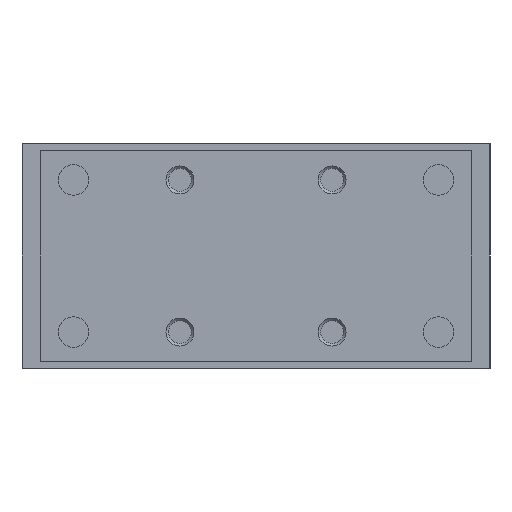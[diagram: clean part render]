
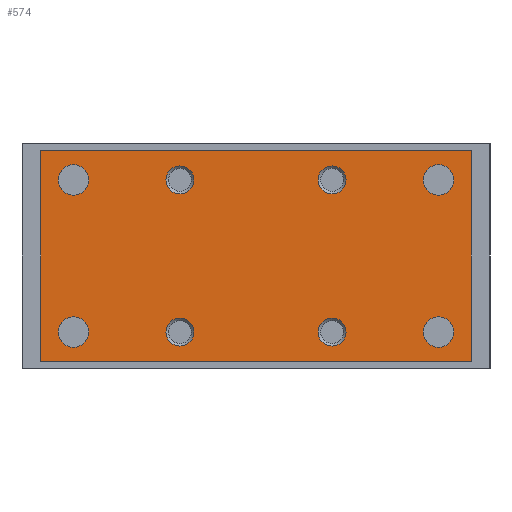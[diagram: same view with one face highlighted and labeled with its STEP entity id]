
A CAD part, left-side view. The second image highlights one B-rep face of the part: STEP entity #574.
In plain terms, the highlighted planar face has unit normal (-1, 0, 0).
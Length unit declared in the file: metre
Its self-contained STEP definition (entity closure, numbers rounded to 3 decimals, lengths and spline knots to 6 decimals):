
#574 = ADVANCED_FACE( '', ( #1321, #1322, #1323, #1324, #1325, #1326, #1327, #1328, #1329 ), #1330, .T. );
#1321 = FACE_BOUND( '', #2141, .T. );
#1322 = FACE_BOUND( '', #2142, .T. );
#1323 = FACE_BOUND( '', #2143, .T. );
#1324 = FACE_BOUND( '', #2144, .T. );
#1325 = FACE_BOUND( '', #2145, .T. );
#1326 = FACE_BOUND( '', #2146, .T. );
#1327 = FACE_BOUND( '', #2147, .T. );
#1328 = FACE_BOUND( '', #2148, .T. );
#1329 = FACE_OUTER_BOUND( '', #2149, .T. );
#1330 = PLANE( '', #2150 );
#2141 = EDGE_LOOP( '', ( #3475 ) );
#2142 = EDGE_LOOP( '', ( #3476 ) );
#2143 = EDGE_LOOP( '', ( #3477 ) );
#2144 = EDGE_LOOP( '', ( #3478 ) );
#2145 = EDGE_LOOP( '', ( #3479 ) );
#2146 = EDGE_LOOP( '', ( #3480 ) );
#2147 = EDGE_LOOP( '', ( #3481 ) );
#2148 = EDGE_LOOP( '', ( #3482 ) );
#2149 = EDGE_LOOP( '', ( #3483, #3484, #3485, #3486 ) );
#2150 = AXIS2_PLACEMENT_3D( '', #3487, #3488, #3489 );
#3475 = ORIENTED_EDGE( '', *, *, #4252, .F. );
#3476 = ORIENTED_EDGE( '', *, *, #4253, .F. );
#3477 = ORIENTED_EDGE( '', *, *, #4254, .F. );
#3478 = ORIENTED_EDGE( '', *, *, #3937, .F. );
#3479 = ORIENTED_EDGE( '', *, *, #4160, .T. );
#3480 = ORIENTED_EDGE( '', *, *, #3870, .F. );
#3481 = ORIENTED_EDGE( '', *, *, #4247, .F. );
#3482 = ORIENTED_EDGE( '', *, *, #3873, .T. );
#3483 = ORIENTED_EDGE( '', *, *, #4033, .T. );
#3484 = ORIENTED_EDGE( '', *, *, #4045, .T. );
#3485 = ORIENTED_EDGE( '', *, *, #4255, .T. );
#3486 = ORIENTED_EDGE( '', *, *, #4256, .T. );
#3487 = CARTESIAN_POINT( '', ( -0.06225, -0.046, -0.0015 ) );
#3488 = DIRECTION( '', ( -1., 0., 0. ) );
#3489 = DIRECTION( '', ( 0., 0., 1. ) );
#3870 = EDGE_CURVE( '', #4468, #4468, #4469, .T. );
#3873 = EDGE_CURVE( '', #4473, #4473, #4474, .T. );
#3937 = EDGE_CURVE( '', #4582, #4582, #4583, .T. );
#4033 = EDGE_CURVE( '', #4726, #4724, #4727, .T. );
#4045 = EDGE_CURVE( '', #4724, #4745, #4747, .T. );
#4160 = EDGE_CURVE( '', #4910, #4910, #4911, .T. );
#4247 = EDGE_CURVE( '', #5016, #5016, #5017, .T. );
#4252 = EDGE_CURVE( '', #5023, #5023, #5024, .T. );
#4253 = EDGE_CURVE( '', #5025, #5025, #5026, .T. );
#4254 = EDGE_CURVE( '', #5027, #5027, #5028, .T. );
#4255 = EDGE_CURVE( '', #4745, #5029, #5030, .T. );
#4256 = EDGE_CURVE( '', #5029, #4726, #5031, .T. );
#4468 = VERTEX_POINT( '', #5274 );
#4469 = CIRCLE( '', #5275, 0.003 );
#4473 = VERTEX_POINT( '', #5279 );
#4474 = CIRCLE( '', #5280, 0.003 );
#4582 = VERTEX_POINT( '', #5440 );
#4583 = CIRCLE( '', #5441, 0.00325 );
#4724 = VERTEX_POINT( '', #5649 );
#4726 = VERTEX_POINT( '', #5652 );
#4727 = LINE( '', #5653, #5654 );
#4745 = VERTEX_POINT( '', #5679 );
#4747 = LINE( '', #5682, #5683 );
#4910 = VERTEX_POINT( '', #5972 );
#4911 = CIRCLE( '', #5973, 0.003 );
#5016 = VERTEX_POINT( '', #6136 );
#5017 = CIRCLE( '', #6137, 0.003 );
#5023 = VERTEX_POINT( '', #6143 );
#5024 = CIRCLE( '', #6144, 0.00325 );
#5025 = VERTEX_POINT( '', #6145 );
#5026 = CIRCLE( '', #6146, 0.00325 );
#5027 = VERTEX_POINT( '', #6147 );
#5028 = CIRCLE( '', #6148, 0.00325 );
#5029 = VERTEX_POINT( '', #6149 );
#5030 = LINE( '', #6150, #6151 );
#5031 = LINE( '', #6152, #6153 );
#5274 = CARTESIAN_POINT( '', ( -0.06225, 0.01625, -0.03725 ) );
#5275 = AXIS2_PLACEMENT_3D( '', #6371, #6372, #6373 );
#5279 = CARTESIAN_POINT( '', ( -0.06225, 0.01625, -0.01075 ) );
#5280 = AXIS2_PLACEMENT_3D( '', #6377, #6378, #6379 );
#5440 = CARTESIAN_POINT( '', ( -0.06225, 0.03575, -0.00775 ) );
#5441 = AXIS2_PLACEMENT_3D( '', #6477, #6478, #6479 );
#5649 = CARTESIAN_POINT( '', ( -0.06225, -0.046, -0.0015 ) );
#5652 = CARTESIAN_POINT( '', ( -0.06225, -0.046, -0.0465 ) );
#5653 = CARTESIAN_POINT( '', ( -0.06225, -0.046, -0.0465 ) );
#5654 = VECTOR( '', #6596, 1. );
#5679 = CARTESIAN_POINT( '', ( -0.06225, 0.046, -0.0015 ) );
#5682 = CARTESIAN_POINT( '', ( -0.06225, -0.046, -0.0015 ) );
#5683 = VECTOR( '', #6608, 1. );
#5972 = CARTESIAN_POINT( '', ( -0.06225, -0.01625, -0.03725 ) );
#5973 = AXIS2_PLACEMENT_3D( '', #6738, #6739, #6740 );
#6136 = CARTESIAN_POINT( '', ( -0.06225, -0.01625, -0.01075 ) );
#6137 = AXIS2_PLACEMENT_3D( '', #6802, #6803, #6804 );
#6143 = CARTESIAN_POINT( '', ( -0.06225, -0.04225, -0.04025 ) );
#6144 = AXIS2_PLACEMENT_3D( '', #6808, #6809, #6810 );
#6145 = CARTESIAN_POINT( '', ( -0.06225, 0.03575, -0.04025 ) );
#6146 = AXIS2_PLACEMENT_3D( '', #6811, #6812, #6813 );
#6147 = CARTESIAN_POINT( '', ( -0.06225, -0.04225, -0.00775 ) );
#6148 = AXIS2_PLACEMENT_3D( '', #6814, #6815, #6816 );
#6149 = CARTESIAN_POINT( '', ( -0.06225, 0.046, -0.0465 ) );
#6150 = CARTESIAN_POINT( '', ( -0.06225, 0.046, -0.0015 ) );
#6151 = VECTOR( '', #6817, 1. );
#6152 = CARTESIAN_POINT( '', ( -0.06225, 0.046, -0.0465 ) );
#6153 = VECTOR( '', #6818, 1. );
#6371 = CARTESIAN_POINT( '', ( -0.06225, 0.01625, -0.04025 ) );
#6372 = DIRECTION( '', ( -1., 0., 0. ) );
#6373 = DIRECTION( '', ( 0., 0., 1. ) );
#6377 = CARTESIAN_POINT( '', ( -0.06225, 0.01625, -0.00775 ) );
#6378 = DIRECTION( '', ( 1., 0., 0. ) );
#6379 = DIRECTION( '', ( 0., 0., -1. ) );
#6477 = CARTESIAN_POINT( '', ( -0.06225, 0.039, -0.00775 ) );
#6478 = DIRECTION( '', ( -1., 0., 0. ) );
#6479 = DIRECTION( '', ( 0., -1., 0. ) );
#6596 = DIRECTION( '', ( 0., 0., 1. ) );
#6608 = DIRECTION( '', ( 0., 1., 0. ) );
#6738 = CARTESIAN_POINT( '', ( -0.06225, -0.01625, -0.04025 ) );
#6739 = DIRECTION( '', ( 1., 0., 0. ) );
#6740 = DIRECTION( '', ( 0., 0., 1. ) );
#6802 = CARTESIAN_POINT( '', ( -0.06225, -0.01625, -0.00775 ) );
#6803 = DIRECTION( '', ( -1., 0., 0. ) );
#6804 = DIRECTION( '', ( 0., 0., -1. ) );
#6808 = CARTESIAN_POINT( '', ( -0.06225, -0.039, -0.04025 ) );
#6809 = DIRECTION( '', ( -1., 0., 0. ) );
#6810 = DIRECTION( '', ( 0., -1., 0. ) );
#6811 = CARTESIAN_POINT( '', ( -0.06225, 0.039, -0.04025 ) );
#6812 = DIRECTION( '', ( -1., 0., 0. ) );
#6813 = DIRECTION( '', ( 0., -1., 0. ) );
#6814 = CARTESIAN_POINT( '', ( -0.06225, -0.039, -0.00775 ) );
#6815 = DIRECTION( '', ( -1., 0., 0. ) );
#6816 = DIRECTION( '', ( 0., -1., 0. ) );
#6817 = DIRECTION( '', ( 0., 0., -1. ) );
#6818 = DIRECTION( '', ( 0., -1., 0. ) );
